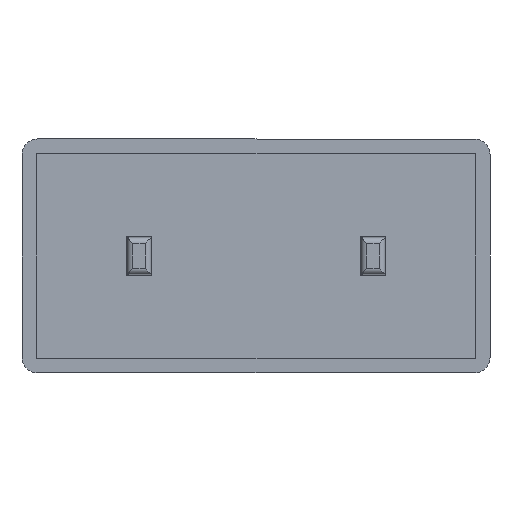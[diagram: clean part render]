
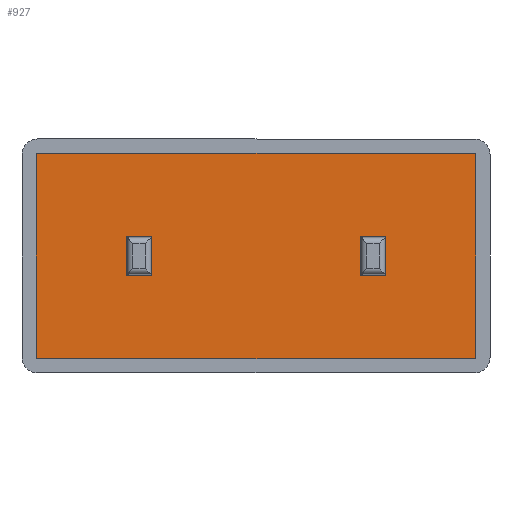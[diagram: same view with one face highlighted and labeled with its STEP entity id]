
A CAD part, front view. The second image highlights one B-rep face of the part: STEP entity #927.
In plain terms, the highlighted planar face has unit normal (0, -1, 0).
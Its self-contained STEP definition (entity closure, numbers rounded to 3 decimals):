
#1 = VERTEX_POINT ( 'NONE', #686 ) ;
#28 = CARTESIAN_POINT ( 'NONE',  ( -28.2, -0.5, -13. ) ) ;
#39 = ORIENTED_EDGE ( 'NONE', *, *, #612, .T. ) ;
#44 = EDGE_CURVE ( 'NONE', #1133, #1198, #946, .T. ) ;
#54 = CARTESIAN_POINT ( 'NONE',  ( 16.65, -0.5, -2.45 ) ) ;
#88 = ORIENTED_EDGE ( 'NONE', *, *, #44, .T. ) ;
#100 = VERTEX_POINT ( 'NONE', #495 ) ;
#104 = ORIENTED_EDGE ( 'NONE', *, *, #944, .T. ) ;
#118 = VERTEX_POINT ( 'NONE', #604 ) ;
#125 = CARTESIAN_POINT ( 'NONE',  ( -13.35, -0.5, -2.45 ) ) ;
#150 = CARTESIAN_POINT ( 'NONE',  ( -28., -0.5, 13.2 ) ) ;
#155 = DIRECTION ( 'NONE',  ( 0., 0., 1. ) ) ;
#163 = CARTESIAN_POINT ( 'NONE',  ( 28.2, -0.5, -13. ) ) ;
#165 = EDGE_CURVE ( 'NONE', #199, #958, #1023, .T. ) ;
#183 = LINE ( 'NONE', #1073, #1212 ) ;
#193 = FACE_BOUND ( 'NONE', #990, .T. ) ;
#195 = CARTESIAN_POINT ( 'NONE',  ( 28., -0.5, 13. ) ) ;
#198 = ORIENTED_EDGE ( 'NONE', *, *, #406, .F. ) ;
#199 = VERTEX_POINT ( 'NONE', #1143 ) ;
#202 = VECTOR ( 'NONE', #1241, 1000. ) ;
#208 = EDGE_CURVE ( 'NONE', #1095, #1, #1228, .T. ) ;
#225 = VECTOR ( 'NONE', #1232, 1000. ) ;
#233 = CARTESIAN_POINT ( 'NONE',  ( -28., -0.5, -13.2 ) ) ;
#244 = DIRECTION ( 'NONE',  ( 0., -1., 0. ) ) ;
#253 = DIRECTION ( 'NONE',  ( 0., -1., 0. ) ) ;
#255 = DIRECTION ( 'NONE',  ( 0., -1., 0. ) ) ;
#262 = ORIENTED_EDGE ( 'NONE', *, *, #165, .F. ) ;
#265 = CARTESIAN_POINT ( 'NONE',  ( 28., -0.5, 13.2 ) ) ;
#277 = VERTEX_POINT ( 'NONE', #1160 ) ;
#286 = LINE ( 'NONE', #1284, #417 ) ;
#293 = DIRECTION ( 'NONE',  ( 0., 0., -1. ) ) ;
#295 = ORIENTED_EDGE ( 'NONE', *, *, #1130, .T. ) ;
#299 = EDGE_CURVE ( 'NONE', #958, #978, #873, .T. ) ;
#304 = ORIENTED_EDGE ( 'NONE', *, *, #805, .T. ) ;
#308 = VECTOR ( 'NONE', #506, 1000. ) ;
#309 = EDGE_CURVE ( 'NONE', #701, #813, #1113, .T. ) ;
#314 = LINE ( 'NONE', #691, #816 ) ;
#326 = ORIENTED_EDGE ( 'NONE', *, *, #713, .F. ) ;
#334 = ORIENTED_EDGE ( 'NONE', *, *, #208, .T. ) ;
#374 = CARTESIAN_POINT ( 'NONE',  ( -28., -0.5, 13. ) ) ;
#379 = CARTESIAN_POINT ( 'NONE',  ( 16.65, -0.5, -2.45 ) ) ;
#389 = DIRECTION ( 'NONE',  ( -1., 0., 0. ) ) ;
#405 = AXIS2_PLACEMENT_3D ( 'NONE', #850, #253, #950 ) ;
#406 = EDGE_CURVE ( 'NONE', #797, #277, #979, .T. ) ;
#417 = VECTOR ( 'NONE', #1280, 1000. ) ;
#423 = ORIENTED_EDGE ( 'NONE', *, *, #1298, .F. ) ;
#431 = CARTESIAN_POINT ( 'NONE',  ( 13.35, -0.5, -2.45 ) ) ;
#433 = VECTOR ( 'NONE', #155, 1000. ) ;
#477 = LINE ( 'NONE', #531, #1207 ) ;
#483 = ORIENTED_EDGE ( 'NONE', *, *, #299, .F. ) ;
#486 = FACE_OUTER_BOUND ( 'NONE', #1253, .T. ) ;
#490 = AXIS2_PLACEMENT_3D ( 'NONE', #843, #244, #940 ) ;
#495 = CARTESIAN_POINT ( 'NONE',  ( -28.2, -0.5, 13. ) ) ;
#498 = LINE ( 'NONE', #150, #773 ) ;
#500 = EDGE_CURVE ( 'NONE', #1019, #199, #477, .T. ) ;
#506 = DIRECTION ( 'NONE',  ( 0., 0., 1. ) ) ;
#529 = ORIENTED_EDGE ( 'NONE', *, *, #1209, .T. ) ;
#531 = CARTESIAN_POINT ( 'NONE',  ( 13.35, -0.5, -2.45 ) ) ;
#532 = DIRECTION ( 'NONE',  ( -1., 0., 0. ) ) ;
#549 = CARTESIAN_POINT ( 'NONE',  ( -16.65, -0.5, 2.45 ) ) ;
#567 = CIRCLE ( 'NONE', #490, 0.2 ) ;
#571 = EDGE_LOOP ( 'NONE', ( #262, #770, #759, #483 ) ) ;
#575 = DIRECTION ( 'NONE',  ( 0., 0., -1. ) ) ;
#586 = CARTESIAN_POINT ( 'NONE',  ( 13.35, -0.5, 2.45 ) ) ;
#591 = VECTOR ( 'NONE', #389, 1000. ) ;
#604 = CARTESIAN_POINT ( 'NONE',  ( -28., -0.5, 13.2 ) ) ;
#612 = EDGE_CURVE ( 'NONE', #1, #904, #847, .T. ) ;
#638 = DIRECTION ( 'NONE',  ( 0., 0., -1. ) ) ;
#640 = CARTESIAN_POINT ( 'NONE',  ( -28., -0.5, -13.2 ) ) ;
#672 = CARTESIAN_POINT ( 'NONE',  ( 16.65, -0.5, 2.45 ) ) ;
#682 = CARTESIAN_POINT ( 'NONE',  ( 13.35, -0.5, 2.45 ) ) ;
#686 = CARTESIAN_POINT ( 'NONE',  ( 28., -0.5, -13.2 ) ) ;
#691 = CARTESIAN_POINT ( 'NONE',  ( -16.65, -0.5, -2.45 ) ) ;
#701 = VERTEX_POINT ( 'NONE', #125 ) ;
#712 = VECTOR ( 'NONE', #910, 1000. ) ;
#713 = EDGE_CURVE ( 'NONE', #813, #797, #760, .T. ) ;
#715 = FACE_BOUND ( 'NONE', #571, .T. ) ;
#719 = VECTOR ( 'NONE', #532, 1000. ) ;
#756 = CARTESIAN_POINT ( 'NONE',  ( -13.35, -0.5, 2.45 ) ) ;
#758 = CARTESIAN_POINT ( 'NONE',  ( 28.2, -0.5, 13. ) ) ;
#759 = ORIENTED_EDGE ( 'NONE', *, *, #1273, .F. ) ;
#760 = LINE ( 'NONE', #925, #719 ) ;
#770 = ORIENTED_EDGE ( 'NONE', *, *, #500, .F. ) ;
#773 = VECTOR ( 'NONE', #854, 1000. ) ;
#775 = PLANE ( 'NONE',  #1191 ) ;
#779 = ORIENTED_EDGE ( 'NONE', *, *, #1111, .T. ) ;
#797 = VERTEX_POINT ( 'NONE', #549 ) ;
#805 = EDGE_CURVE ( 'NONE', #118, #100, #1168, .T. ) ;
#813 = VERTEX_POINT ( 'NONE', #756 ) ;
#816 = VECTOR ( 'NONE', #986, 1000. ) ;
#828 = ORIENTED_EDGE ( 'NONE', *, *, #309, .F. ) ;
#843 = CARTESIAN_POINT ( 'NONE',  ( -28., -0.5, -13. ) ) ;
#847 = CIRCLE ( 'NONE', #405, 0.2 ) ;
#850 = CARTESIAN_POINT ( 'NONE',  ( 28., -0.5, -13. ) ) ;
#852 = CARTESIAN_POINT ( 'NONE',  ( -28., -0.5, 13. ) ) ;
#854 = DIRECTION ( 'NONE',  ( -1., 0., 0. ) ) ;
#873 = LINE ( 'NONE', #54, #433 ) ;
#887 = DIRECTION ( 'NONE',  ( 0., -1., 0. ) ) ;
#904 = VERTEX_POINT ( 'NONE', #163 ) ;
#906 = LINE ( 'NONE', #586, #591 ) ;
#910 = DIRECTION ( 'NONE',  ( 0., 0., -1. ) ) ;
#925 = CARTESIAN_POINT ( 'NONE',  ( -16.65, -0.5, 2.45 ) ) ;
#927 = ADVANCED_FACE ( 'NONE', ( #193, #486, #715 ), #775, .T. ) ;
#940 = DIRECTION ( 'NONE',  ( 0., 0., -1. ) ) ;
#944 = EDGE_CURVE ( 'NONE', #904, #1133, #286, .T. ) ;
#946 = CIRCLE ( 'NONE', #988, 0.2 ) ;
#950 = DIRECTION ( 'NONE',  ( 0., 0., -1. ) ) ;
#951 = DIRECTION ( 'NONE',  ( 0., 0., -1. ) ) ;
#957 = CARTESIAN_POINT ( 'NONE',  ( -13.35, -0.5, 2.45 ) ) ;
#958 = VERTEX_POINT ( 'NONE', #379 ) ;
#978 = VERTEX_POINT ( 'NONE', #672 ) ;
#979 = LINE ( 'NONE', #1018, #712 ) ;
#986 = DIRECTION ( 'NONE',  ( 1., 0., 0. ) ) ;
#988 = AXIS2_PLACEMENT_3D ( 'NONE', #195, #887, #293 ) ;
#990 = EDGE_LOOP ( 'NONE', ( #423, #198, #326, #828 ) ) ;
#1018 = CARTESIAN_POINT ( 'NONE',  ( -16.65, -0.5, 2.45 ) ) ;
#1019 = VERTEX_POINT ( 'NONE', #682 ) ;
#1023 = LINE ( 'NONE', #431, #225 ) ;
#1064 = VERTEX_POINT ( 'NONE', #28 ) ;
#1073 = CARTESIAN_POINT ( 'NONE',  ( -28.2, -0.5, 13. ) ) ;
#1075 = DIRECTION ( 'NONE',  ( 0., 0., -1. ) ) ;
#1083 = AXIS2_PLACEMENT_3D ( 'NONE', #852, #255, #951 ) ;
#1095 = VERTEX_POINT ( 'NONE', #640 ) ;
#1111 = EDGE_CURVE ( 'NONE', #1064, #1095, #567, .T. ) ;
#1113 = LINE ( 'NONE', #957, #308 ) ;
#1130 = EDGE_CURVE ( 'NONE', #1198, #118, #498, .T. ) ;
#1133 = VERTEX_POINT ( 'NONE', #758 ) ;
#1143 = CARTESIAN_POINT ( 'NONE',  ( 13.35, -0.5, -2.45 ) ) ;
#1160 = CARTESIAN_POINT ( 'NONE',  ( -16.65, -0.5, -2.45 ) ) ;
#1168 = CIRCLE ( 'NONE', #1083, 0.2 ) ;
#1174 = DIRECTION ( 'NONE',  ( 0., -1., 0. ) ) ;
#1191 = AXIS2_PLACEMENT_3D ( 'NONE', #374, #1174, #575 ) ;
#1198 = VERTEX_POINT ( 'NONE', #265 ) ;
#1207 = VECTOR ( 'NONE', #638, 1000. ) ;
#1209 = EDGE_CURVE ( 'NONE', #100, #1064, #183, .T. ) ;
#1212 = VECTOR ( 'NONE', #1075, 1000. ) ;
#1228 = LINE ( 'NONE', #233, #202 ) ;
#1232 = DIRECTION ( 'NONE',  ( 1., 0., 0. ) ) ;
#1241 = DIRECTION ( 'NONE',  ( 1., 0., 0. ) ) ;
#1253 = EDGE_LOOP ( 'NONE', ( #304, #529, #779, #334, #39, #104, #88, #295 ) ) ;
#1273 = EDGE_CURVE ( 'NONE', #978, #1019, #906, .T. ) ;
#1280 = DIRECTION ( 'NONE',  ( 0., 0., 1. ) ) ;
#1284 = CARTESIAN_POINT ( 'NONE',  ( 28.2, -0.5, 13. ) ) ;
#1298 = EDGE_CURVE ( 'NONE', #277, #701, #314, .T. ) ;
